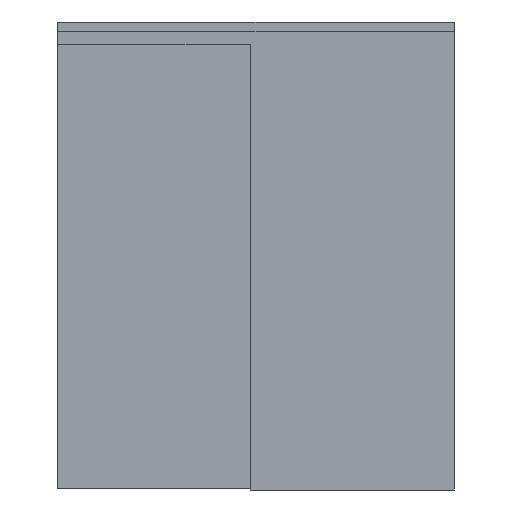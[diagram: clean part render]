
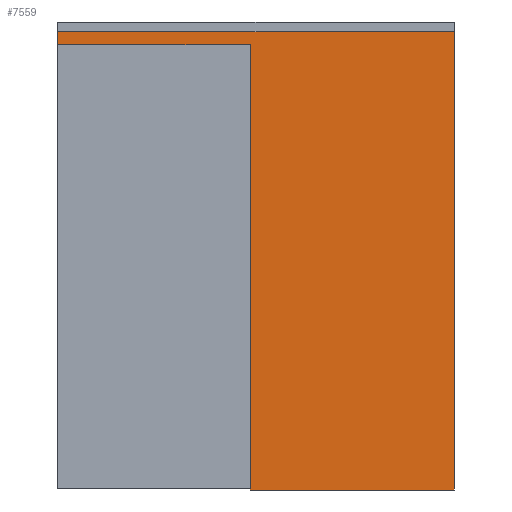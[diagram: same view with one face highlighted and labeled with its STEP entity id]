
A CAD part, front view. The second image highlights one B-rep face of the part: STEP entity #7559.
In plain terms, the highlighted planar face has unit normal (0, -1, 0).
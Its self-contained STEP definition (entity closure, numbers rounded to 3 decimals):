
#7559=ADVANCED_FACE('',(#12815),#12816,.F.);
#12815=FACE_OUTER_BOUND('',#20662,.T.);
#12816=PLANE('',#20663);
#20662=EDGE_LOOP('',(#23719,#23720,#23721,#23722,#23723,#23724));
#20663=AXIS2_PLACEMENT_3D('',#23725,#23726,#23727);
#23719=ORIENTED_EDGE('',*,*,#30023,.T.);
#23720=ORIENTED_EDGE('',*,*,#30013,.F.);
#23721=ORIENTED_EDGE('',*,*,#30017,.F.);
#23722=ORIENTED_EDGE('',*,*,#30021,.T.);
#23723=ORIENTED_EDGE('',*,*,#30024,.F.);
#23724=ORIENTED_EDGE('',*,*,#30025,.F.);
#23725=CARTESIAN_POINT('',(0.0,-44.,2333.0));
#23726=DIRECTION('',(0.0,1.0,-0.0));
#23727=DIRECTION('',(0.0,0.0,1.0));
#30013=EDGE_CURVE('',#33695,#33690,#33697,.T.);
#30017=EDGE_CURVE('',#33701,#33695,#33703,.T.);
#30021=EDGE_CURVE('',#33701,#33707,#33709,.T.);
#30023=EDGE_CURVE('',#33711,#33690,#33712,.T.);
#30024=EDGE_CURVE('',#33713,#33707,#33714,.T.);
#30025=EDGE_CURVE('',#33711,#33713,#33715,.T.);
#33690=VERTEX_POINT('',#34608);
#33695=VERTEX_POINT('',#34615);
#33697=LINE('',#34618,#34619);
#33701=VERTEX_POINT('',#34624);
#33703=LINE('',#34627,#34628);
#33707=VERTEX_POINT('',#34633);
#33709=LINE('',#34636,#34637);
#33711=VERTEX_POINT('',#34639);
#33712=LINE('',#34640,#34641);
#33713=VERTEX_POINT('',#34642);
#33714=LINE('',#34643,#34644);
#33715=LINE('',#34645,#34646);
#34608=CARTESIAN_POINT('',(995.0,-44.,2301.0));
#34615=CARTESIAN_POINT('',(995.0,-44.,0.0));
#34618=CARTESIAN_POINT('',(995.0,-44.,7.0));
#34619=VECTOR('',#35746,1.0);
#34624=CARTESIAN_POINT('',(2050.0,-44.,0.0));
#34627=CARTESIAN_POINT('',(1327.5,-44.,0.0));
#34628=VECTOR('',#35749,1.0);
#34633=CARTESIAN_POINT('',(2050.0,-44.,2368.0));
#34636=CARTESIAN_POINT('',(2050.0,-44.,7.0));
#34637=VECTOR('',#35752,1.0);
#34639=CARTESIAN_POINT('',(0.0,-44.,2301.0));
#34640=CARTESIAN_POINT('',(0.0,-44.,2301.0));
#34641=VECTOR('',#35753,1.0);
#34642=CARTESIAN_POINT('',(0.0,-44.,2368.0));
#34643=CARTESIAN_POINT('',(1270.0,-44.,2368.0));
#34644=VECTOR('',#35754,1.0);
#34645=CARTESIAN_POINT('',(0.0,-44.,2301.0));
#34646=VECTOR('',#35755,1.0);
#35746=DIRECTION('',(0.0,0.0,1.0));
#35749=DIRECTION('',(-1.0,0.0,0.0));
#35752=DIRECTION('',(0.0,0.0,1.0));
#35753=DIRECTION('',(1.0,0.0,0.0));
#35754=DIRECTION('',(1.0,0.0,0.0));
#35755=DIRECTION('',(0.0,0.0,1.0));
